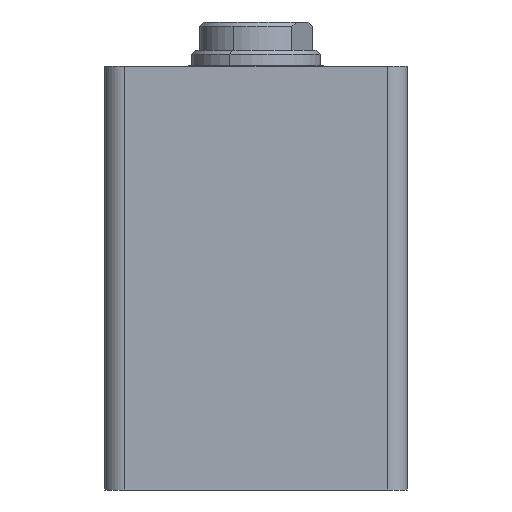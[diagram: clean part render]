
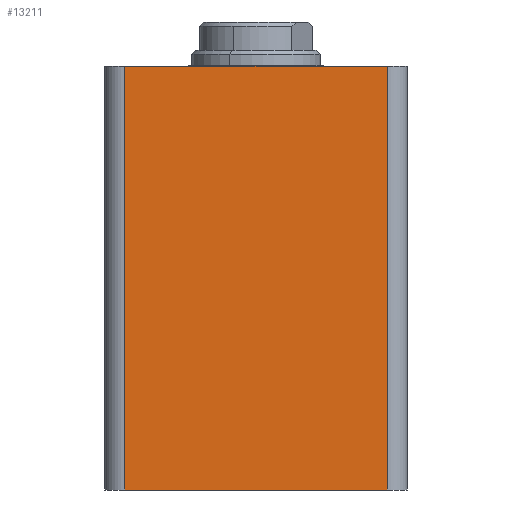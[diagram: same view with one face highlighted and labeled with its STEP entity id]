
A CAD part, front view. The second image highlights one B-rep face of the part: STEP entity #13211.
In plain terms, the highlighted planar face has unit normal (0, -1, 0).
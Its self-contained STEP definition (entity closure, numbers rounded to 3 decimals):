
#620 = CARTESIAN_POINT ( 'NONE',  ( 5., 0., 0. ) ) ;
#748 = LINE ( 'NONE', #19700, #6631 ) ;
#1746 = EDGE_CURVE ( 'NONE', #24284, #18033, #13830, .T. ) ;
#2055 = PLANE ( 'NONE',  #19305 ) ;
#3156 = EDGE_CURVE ( 'NONE', #15645, #18033, #22225, .T. ) ;
#3280 = CARTESIAN_POINT ( 'NONE',  ( 0., 0., 105. ) ) ;
#5179 = CARTESIAN_POINT ( 'NONE',  ( 5., 0., 105. ) ) ;
#5226 = DIRECTION ( 'NONE',  ( 1., 0., 0. ) ) ;
#5549 = DIRECTION ( 'NONE',  ( 0., 1., 0. ) ) ;
#6631 = VECTOR ( 'NONE', #19202, 1000. ) ;
#7213 = CARTESIAN_POINT ( 'NONE',  ( 0., 0., 0. ) ) ;
#8532 = VECTOR ( 'NONE', #5226, 1000. ) ;
#8668 = DIRECTION ( 'NONE',  ( 1., 0., 0. ) ) ;
#9421 = ORIENTED_EDGE ( 'NONE', *, *, #23968, .T. ) ;
#9722 = VECTOR ( 'NONE', #8668, 1000. ) ;
#11456 = VECTOR ( 'NONE', #11962, 1000. ) ;
#11962 = DIRECTION ( 'NONE',  ( 0., 0., 1. ) ) ;
#12351 = CARTESIAN_POINT ( 'NONE',  ( 70., 0., 105. ) ) ;
#12733 = ORIENTED_EDGE ( 'NONE', *, *, #18317, .T. ) ;
#12825 = ORIENTED_EDGE ( 'NONE', *, *, #1746, .T. ) ;
#13211 = ADVANCED_FACE ( 'NONE', ( #22848 ), #2055, .F. ) ;
#13592 = VERTEX_POINT ( 'NONE', #620 ) ;
#13830 = LINE ( 'NONE', #12351, #11456 ) ;
#14706 = ORIENTED_EDGE ( 'NONE', *, *, #3156, .F. ) ;
#15198 = CARTESIAN_POINT ( 'NONE',  ( 70., 0., 0. ) ) ;
#15645 = VERTEX_POINT ( 'NONE', #5179 ) ;
#18033 = VERTEX_POINT ( 'NONE', #22560 ) ;
#18317 = EDGE_CURVE ( 'NONE', #13592, #24284, #22025, .T. ) ;
#19202 = DIRECTION ( 'NONE',  ( 0., 0., -1. ) ) ;
#19305 = AXIS2_PLACEMENT_3D ( 'NONE', #22606, #5549, #24593 ) ;
#19700 = CARTESIAN_POINT ( 'NONE',  ( 5., 0., 105. ) ) ;
#22025 = LINE ( 'NONE', #7213, #8532 ) ;
#22225 = LINE ( 'NONE', #3280, #9722 ) ;
#22560 = CARTESIAN_POINT ( 'NONE',  ( 70., 0., 105. ) ) ;
#22606 = CARTESIAN_POINT ( 'NONE',  ( 0., 0., 105. ) ) ;
#22848 = FACE_OUTER_BOUND ( 'NONE', #23259, .T. ) ;
#23259 = EDGE_LOOP ( 'NONE', ( #12733, #12825, #14706, #9421 ) ) ;
#23968 = EDGE_CURVE ( 'NONE', #15645, #13592, #748, .T. ) ;
#24284 = VERTEX_POINT ( 'NONE', #15198 ) ;
#24593 = DIRECTION ( 'NONE',  ( 0., 0., 1. ) ) ;
